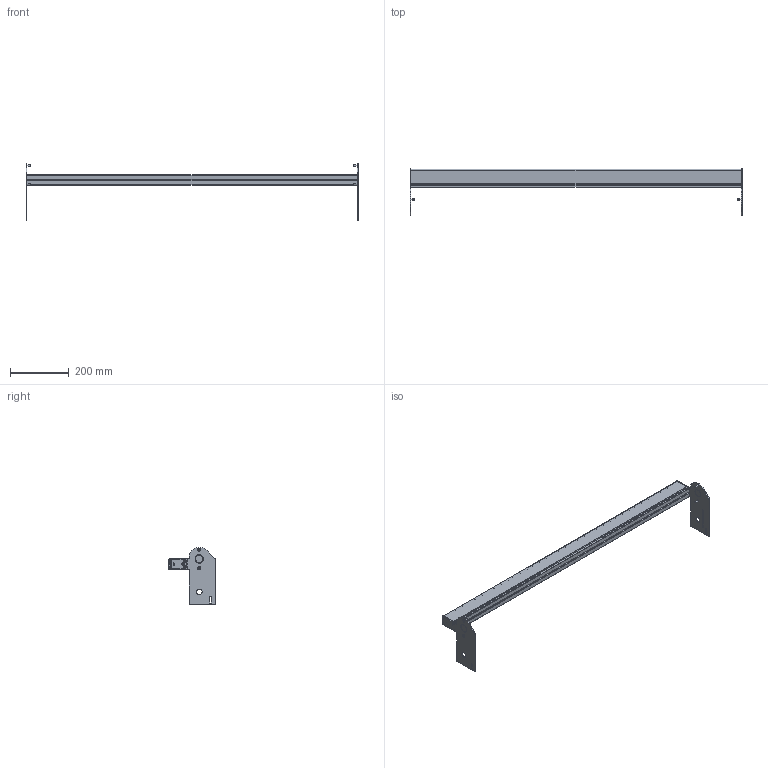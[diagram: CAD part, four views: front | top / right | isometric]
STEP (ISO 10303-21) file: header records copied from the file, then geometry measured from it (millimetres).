
FILE_DESCRIPTION((''),'2;1');
FILE_NAME('350712-44_ASM','2023-03-22T',('jenni.wallner'),(''),'PRO/ENGINEER BY PARAMETRIC TECHNOLOGY CORPORATION, 2012420','PRO/ENGINEER BY PARAMETRIC TECHNOLOGY CORPORATION, 2012420','');
FILE_SCHEMA(('CONFIG_CONTROL_DESIGN'));
Length unit declared in the file: inch
Products named in the file (6): 350669-44; 350667; 350668; 930412M; 930516M; 350712-44_ASM
Assembly tree (11 placements, depth 2):
  350712-44_ASM
    350669-44
    350667
    350668
    930412M  x4
    930516M  x4
Bounding box: 1129.94 x 158.09 x 193.27 mm (x, y, z)
Volume: 998359.4 mm3; surface area: 647545.1 mm2
Topology: 11 solids, 11 shells, 334 faces, 872 edges, 568 vertices
Faces by surface type: plane 150, cylinder 136, cone 48
Entity records: 7773 total; most frequent: DIRECTION 1398, CARTESIAN_POINT 1317, ORIENTED_EDGE 1288, EDGE_CURVE 644, AXIS2_PLACEMENT_3D 505, VERTEX_POINT 424, VECTOR 388, LINE 388
